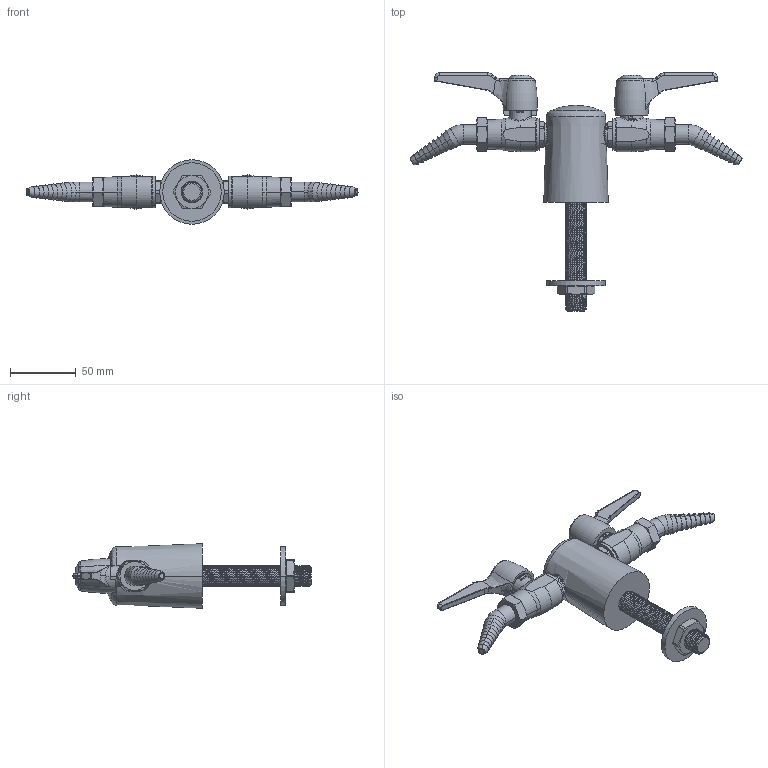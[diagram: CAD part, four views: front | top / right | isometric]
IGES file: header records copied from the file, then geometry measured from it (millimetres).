
Start section:  PTC IGES file: LGB1-21I-25.igs
Global section: file name: LGB1-21I-25.igs; native system: Creo Parametric by PTC Inc.; preprocessor: 2014500; author: usch_engrender; organization: Unknown; date: 20151130.105112; units: inch
Bounding box: 252.23 x 180.86 x 49.02 mm (x, y, z)
Volume: 205253.6 mm3; surface area: 62778 mm2
Topology: 3 solids, 4 shells, 925 faces, 2273 edges, 1414 vertices
Faces by surface type: revolution 523, bspline 338, extrusion 64
